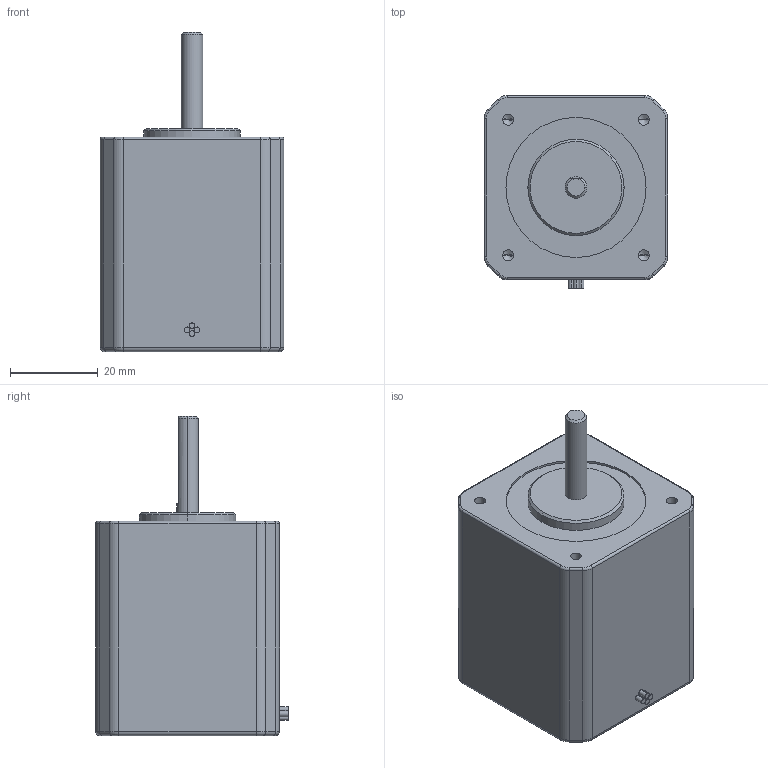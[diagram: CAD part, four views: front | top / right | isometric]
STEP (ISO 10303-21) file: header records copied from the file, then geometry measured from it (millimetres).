
FILE_DESCRIPTION (( 'STEP AP203' ), '1' );
FILE_NAME ('Nema17(SY42STH47-1684A)singelshaft.STEP', '2021-01-13T07:29:10', ( '' ), ( '' ), 'SwSTEP 2.0', 'SolidWorks 2016', '' );
FILE_SCHEMA (( 'CONFIG_CONTROL_DESIGN' ));
Length unit declared in the file: millimetre
Products named in the file (1): Nema17(SY42STH47-1684A)singelshaft
Bounding box: 42 x 44 x 73 mm (x, y, z)
Volume: 85558.3 mm3; surface area: 11892 mm2
Topology: 1 solids, 1 shells, 94 faces, 210 edges, 121 vertices
Faces by surface type: cylinder 46, plane 19, torus 16, cone 13
Entity records: 2638 total; most frequent: DIRECTION 505, CARTESIAN_POINT 430, ORIENTED_EDGE 404, AXIS2_PLACEMENT_3D 210, EDGE_CURVE 202, VERTEX_POINT 121, CIRCLE 115, EDGE_LOOP 105
